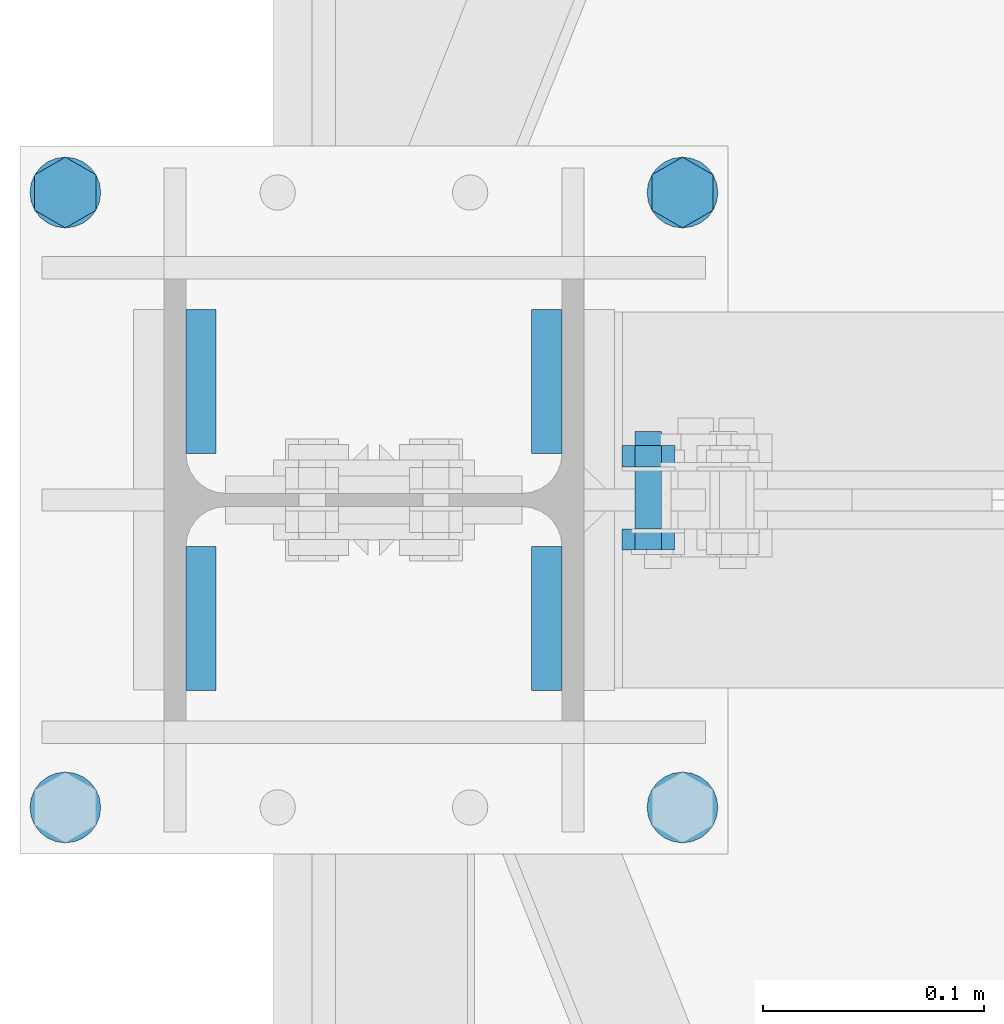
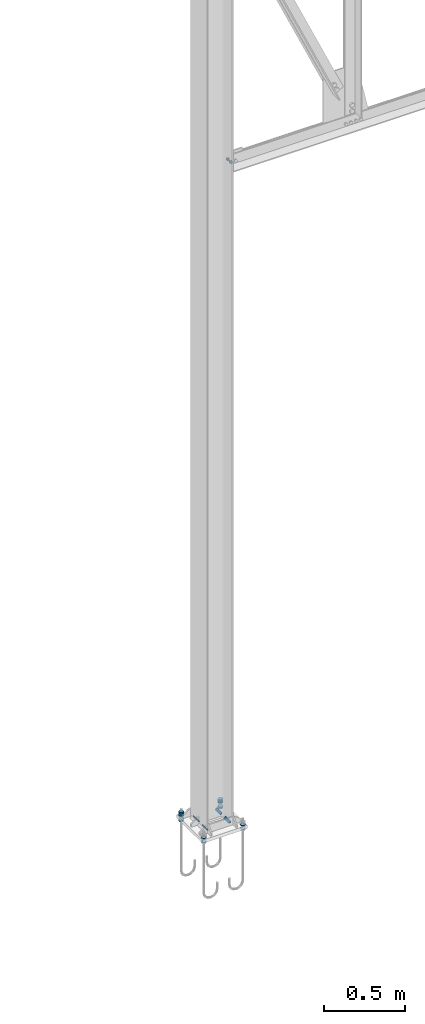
# One storey, part 121 of 251: 17 mechanical fasteners, 8 fasteners.
"""IFC4 building model written with IfcOpenShell, lengths in metres."""

from ifc_helpers import new_model, si_unit, frame, origin_with_axes, place, context, project, spatial, polyline, outline, extrude, type_object, element, save


model = new_model("IFC4")

# Units and contexts
model_context = context("Model", 3, precision=1e-05, world=origin_with_axes())
ifc_project = project(units=[si_unit("LENGTHUNIT", "METRE"), si_unit("AREAUNIT", "SQUARE_METRE"), si_unit("VOLUMEUNIT", "CUBIC_METRE"), si_unit("MASSUNIT", "GRAM", prefix="KILO"), si_unit("TIMEUNIT", "SECOND"), si_unit("PLANEANGLEUNIT", "RADIAN"), si_unit("SOLIDANGLEUNIT", "STERADIAN"), si_unit("THERMODYNAMICTEMPERATUREUNIT", "DEGREE_CELSIUS")], contexts=[model_context])

# Site, building, storey
placement_1 = place(None, origin_with_axes())
site = spatial("IfcSite", under=ifc_project, at=placement_1, Name="Italia", CompositionType="ELEMENT")
building = spatial("IfcBuilding", under=site, at=placement_1, Name="Deposito", CompositionType="ELEMENT")
storey = spatial("IfcBuildingStorey", under=building, at=placement_1, Name="Storey 0", CompositionType="ELEMENT", Elevation=0.0)

# Fasteners
fastener_type_1 = type_object("IfcFastenerType", Name="Collegamenti 0014_-001 0016_-054 0018_-056 0032_-002 0033_-058 0047_-003 0048_-060 0062_-004 0063_-005 0079_-008", PredefinedType="WELD")
placement_2 = place(placement_1, origin_with_axes())
fastener_1_placement = place(placement_2, origin_with_axes())
element("IfcFastener", 1, at=fastener_1_placement, inside=storey, type_object=fastener_type_1, Name="Collegamenti 0014_-001 0016_-054 0018_-056 0032_-002 0033_-058 0047_-003 0048_-060 0062_-004 0063_-005 0079_-008", context=model_context, shape_type="SweptSolid", body=[
    extrude(outline(polyline([(0.0, 0.0), (0.0137482, 0.0141734), (0.0137482, 0.0), (0.0, 0.0)])), frame((5.9787, 10.021, 0.07495), z_axis=(0.0, 1.0, 0.0), x_axis=(-1.0, 0.0, 0.0)), (0.0, 0.0, 1.0), 0.0650997),
])
fastener_type_2 = type_object("IfcFastenerType", Name="Collegamenti 0014_-001 0016_-054 0018_-056 0032_-002 0033_-058 0047_-003 0048_-060 0062_-004 0063_-005 0079_-008", PredefinedType="WELD")
fastener_2_placement = place(placement_2, origin_with_axes())
element("IfcFastener", 2, at=fastener_2_placement, inside=storey, type_object=fastener_type_2, Name="Collegamenti 0014_-001 0016_-054 0018_-056 0032_-002 0033_-058 0047_-003 0048_-060 0062_-004 0063_-005 0079_-008", context=model_context, shape_type="SweptSolid", body=[
    extrude(outline(polyline([(0.0, 0.0), (0.0137482, 0.0141734), (0.0137482, 0.0), (0.0, 0.0)])), frame((6.1213, 10.0861, 0.07495), z_axis=(0.0, -1.0, 0.0), x_axis=(1.0, 0.0, 0.0)), (0.0, 0.0, 1.0), 0.0650997),
])
fastener_type_3 = type_object("IfcFastenerType", Name="Collegamenti 0014_-001 0016_-054 0018_-056 0032_-002 0033_-058 0047_-003 0048_-060 0062_-004 0063_-005 0079_-008", PredefinedType="WELD")
fastener_3_placement = place(placement_2, origin_with_axes())
element("IfcFastener", 3, at=fastener_3_placement, inside=storey, type_object=fastener_type_3, Name="Collegamenti 0014_-001 0016_-054 0018_-056 0032_-002 0033_-058 0047_-003 0048_-060 0062_-004 0063_-005 0079_-008", context=model_context, shape_type="SweptSolid", body=[
    extrude(outline(polyline([(0.0, 0.0), (0.0137482, 0.0141734), (0.0137482, 0.0), (0.0, 0.0)])), frame((6.1213, 9.97905, 0.07495), z_axis=(0.0, -1.0, 0.0), x_axis=(1.0, 0.0, 0.0)), (0.0, 0.0, 1.0), 0.0650997),
])
fastener_type_4 = type_object("IfcFastenerType", Name="Collegamenti 0014_-001 0016_-054 0018_-056 0032_-002 0033_-058 0047_-003 0048_-060 0062_-004 0063_-005 0079_-008", PredefinedType="WELD")
fastener_4_placement = place(placement_2, origin_with_axes())
element("IfcFastener", 4, at=fastener_4_placement, inside=storey, type_object=fastener_type_4, Name="Collegamenti 0014_-001 0016_-054 0018_-056 0032_-002 0033_-058 0047_-003 0048_-060 0062_-004 0063_-005 0079_-008", context=model_context, shape_type="SweptSolid", body=[
    extrude(outline(polyline([(0.0, 0.0), (0.0137482, 0.0141734), (0.0137482, 0.0), (0.0, 0.0)])), frame((5.9787, 9.91395, 0.07495), z_axis=(0.0, 1.0, 0.0), x_axis=(-1.0, 0.0, 0.0)), (0.0, 0.0, 1.0), 0.0650997),
])
fastener_type_5 = type_object("IfcFastenerType", Name="Collegamenti 0014_-001 0016_-054 0018_-056 0032_-002 0033_-058 0047_-003 0048_-060 0062_-004 0063_-005 0079_-008", PredefinedType="WELD")
fastener_5_placement = place(placement_2, origin_with_axes())
element("IfcFastener", 5, at=fastener_5_placement, inside=storey, type_object=fastener_type_5, Name="Collegamenti 0014_-001 0016_-054 0018_-056 0032_-002 0033_-058 0047_-003 0048_-060 0062_-004 0063_-005 0079_-008", context=model_context, shape_type="SweptSolid", body=[
    extrude(outline(polyline([(0.0, 0.0), (0.0137482, 0.0141734), (0.0137482, 0.0), (0.0, 0.0)])), frame((5.9787, 10.021, 0.07495), z_axis=(0.0, 1.0, 0.0), x_axis=(-1.0, 0.0, 0.0)), (0.0, 0.0, 1.0), 0.0650997),
])
fastener_type_6 = type_object("IfcFastenerType", Name="Collegamenti 0014_-001 0016_-054 0018_-056 0032_-002 0033_-058 0047_-003 0048_-060 0062_-004 0063_-005 0079_-008", PredefinedType="WELD")
fastener_6_placement = place(placement_2, origin_with_axes())
element("IfcFastener", 6, at=fastener_6_placement, inside=storey, type_object=fastener_type_6, Name="Collegamenti 0014_-001 0016_-054 0018_-056 0032_-002 0033_-058 0047_-003 0048_-060 0062_-004 0063_-005 0079_-008", context=model_context, shape_type="SweptSolid", body=[
    extrude(outline(polyline([(0.0, 0.0), (0.0137482, 0.0141734), (0.0137482, 0.0), (0.0, 0.0)])), frame((6.1213, 10.0861, 0.07495), z_axis=(0.0, -1.0, 0.0), x_axis=(1.0, 0.0, 0.0)), (0.0, 0.0, 1.0), 0.0650997),
])
fastener_type_7 = type_object("IfcFastenerType", Name="Collegamenti 0014_-001 0016_-054 0018_-056 0032_-002 0033_-058 0047_-003 0048_-060 0062_-004 0063_-005 0079_-008", PredefinedType="WELD")
fastener_7_placement = place(placement_2, origin_with_axes())
element("IfcFastener", 7, at=fastener_7_placement, inside=storey, type_object=fastener_type_7, Name="Collegamenti 0014_-001 0016_-054 0018_-056 0032_-002 0033_-058 0047_-003 0048_-060 0062_-004 0063_-005 0079_-008", context=model_context, shape_type="SweptSolid", body=[
    extrude(outline(polyline([(0.0, 0.0), (0.0137482, 0.0141734), (0.0137482, 0.0), (0.0, 0.0)])), frame((6.1213, 9.97905, 0.07495), z_axis=(0.0, -1.0, 0.0), x_axis=(1.0, 0.0, 0.0)), (0.0, 0.0, 1.0), 0.0650997),
])
fastener_type_8 = type_object("IfcFastenerType", Name="Collegamenti 0014_-001 0016_-054 0018_-056 0032_-002 0033_-058 0047_-003 0048_-060 0062_-004 0063_-005 0079_-008", PredefinedType="WELD")
fastener_8_placement = place(placement_2, origin_with_axes())
element("IfcFastener", 8, at=fastener_8_placement, inside=storey, type_object=fastener_type_8, Name="Collegamenti 0014_-001 0016_-054 0018_-056 0032_-002 0033_-058 0047_-003 0048_-060 0062_-004 0063_-005 0079_-008", context=model_context, shape_type="SweptSolid", body=[
    extrude(outline(polyline([(0.0, 0.0), (0.0137482, 0.0141734), (0.0137482, 0.0), (0.0, 0.0)])), frame((5.9787, 9.91395, 0.07495), z_axis=(0.0, 1.0, 0.0), x_axis=(-1.0, 0.0, 0.0)), (0.0, 0.0, 1.0), 0.0650997),
])

# Mechanical fasteners
mechanical_fastener_type_1 = type_object("IfcMechanicalFastenerType", Name="Collegamenti 0014_-001 0016_-054 0018_-056 0032_-002 0033_-058 0047_-003 0048_-060 0062_-004 0063_-005 0079_-008", PredefinedType="BOLT")
mechanical_fastener_1_placement = place(placement_2, origin_with_axes())
element("IfcMechanicalFastener", 9, at=mechanical_fastener_1_placement, inside=storey, type_object=mechanical_fastener_type_1, Name="Collegamenti 0014_-001 0016_-054 0018_-056 0032_-002 0033_-058 0047_-003 0048_-060 0062_-004 0063_-005 0079_-008", NominalDiameter=0.032, context=model_context, shape_type="SweptSolid", body=[
    extrude(outline(polyline([(0.0, 0.0), (-0.000544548, -0.00414133), (-0.00214386, -0.0079999), (-0.00468636, -0.0113139), (-0.00799942, -0.0138564), (-0.0118589, -0.0154548), (-0.0159998, -0.0159998), (-0.0201406, -0.0154548), (-0.0240002, -0.0138564), (-0.0273132, -0.0113139), (-0.0298557, -0.0079999), (-0.031455, -0.00414133), (-0.0319996, 0.0), (-0.031455, 0.00414133), (-0.0298557, 0.0079999), (-0.0273132, 0.0113139), (-0.0240002, 0.0138564), (-0.0201406, 0.0154548), (-0.0159998, 0.0159998), (-0.0118589, 0.0154548), (-0.00799942, 0.0138564), (-0.00468636, 0.0113139), (-0.00214386, 0.0079999), (-0.000544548, 0.00414133), (0.0, 0.0)])), frame((6.1895, 9.877, 0.075), z_axis=(0.0, 0.0, 1.0), x_axis=(0.0, 1.0, 0.0)), (0.0, 0.0, 1.0), 0.00399999),
])
mechanical_fastener_type_2 = type_object("IfcMechanicalFastenerType", Name="Collegamenti 0014_-001 0016_-054 0018_-056 0032_-002 0033_-058 0047_-003 0048_-060 0062_-004 0063_-005 0079_-008", PredefinedType="BOLT")
mechanical_fastener_2_placement = place(placement_2, origin_with_axes())
element("IfcMechanicalFastener", 10, at=mechanical_fastener_2_placement, inside=storey, type_object=mechanical_fastener_type_2, Name="Collegamenti 0014_-001 0016_-054 0018_-056 0032_-002 0033_-058 0047_-003 0048_-060 0062_-004 0063_-005 0079_-008", NominalDiameter=0.032, context=model_context, shape_type="SweptSolid", body=[
    extrude(outline(polyline([(0.0, 0.0), (-0.000544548, -0.00414133), (-0.00214386, -0.0079999), (-0.00468636, -0.0113139), (-0.00799942, -0.0138564), (-0.0118589, -0.0154548), (-0.0159998, -0.0159998), (-0.0201406, -0.0154548), (-0.0240002, -0.0138564), (-0.0273132, -0.0113139), (-0.0298557, -0.0079999), (-0.031455, -0.00414133), (-0.0319996, 0.0), (-0.031455, 0.00414133), (-0.0298557, 0.0079999), (-0.0273132, 0.0113139), (-0.0240002, 0.0138564), (-0.0201406, 0.0154548), (-0.0159998, 0.0159998), (-0.0118589, 0.0154548), (-0.00799942, 0.0138564), (-0.00468636, 0.0113139), (-0.00214386, 0.0079999), (-0.000544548, 0.00414133), (0.0, 0.0)])), frame((6.1895, 9.877, 0.046), z_axis=(0.0, 0.0, 1.0), x_axis=(0.0, 1.0, 0.0)), (0.0, 0.0, 1.0), 0.004),
])
mechanical_fastener_type_3 = type_object("IfcMechanicalFastenerType", Name="Collegamenti 0014_-001 0016_-054 0018_-056 0032_-002 0033_-058 0047_-003 0048_-060 0062_-004 0063_-005 0079_-008", PredefinedType="BOLT")
mechanical_fastener_3_placement = place(placement_2, origin_with_axes())
element("IfcMechanicalFastener", 11, at=mechanical_fastener_3_placement, inside=storey, type_object=mechanical_fastener_type_3, Name="Collegamenti 0014_-001 0016_-054 0018_-056 0032_-002 0033_-058 0047_-003 0048_-060 0062_-004 0063_-005 0079_-008", NominalDiameter=0.0160001, context=model_context, shape_type="SweptSolid", body=[
    extrude(outline(polyline([(0.0, 0.0), (-0.0160007, 0.0), (-0.0240002, 0.0138569), (-0.0160007, 0.0277138), (0.0, 0.0277138), (0.00799942, 0.0138569), (0.0, 0.0)])), frame((6.20336, 10.147, 0.079), z_axis=(0.0, 0.0, 1.0), x_axis=(0.0, 1.0, 0.0)), (0.0, 0.0, 1.0), 0.0128),
])
mechanical_fastener_type_4 = type_object("IfcMechanicalFastenerType", Name="Collegamenti 0014_-001 0016_-054 0018_-056 0032_-002 0033_-058 0047_-003 0048_-060 0062_-004 0063_-005 0079_-008", PredefinedType="BOLT")
mechanical_fastener_4_placement = place(placement_2, origin_with_axes())
element("IfcMechanicalFastener", 12, at=mechanical_fastener_4_placement, inside=storey, type_object=mechanical_fastener_type_4, Name="Collegamenti 0014_-001 0016_-054 0018_-056 0032_-002 0033_-058 0047_-003 0048_-060 0062_-004 0063_-005 0079_-008", NominalDiameter=0.0160001, context=model_context, shape_type="SweptSolid", body=[
    extrude(outline(polyline([(0.0, 0.0), (-0.0160007, 0.0), (-0.0240002, 0.0138569), (-0.0160007, 0.0277138), (0.0, 0.0277138), (0.00799942, 0.0138569), (0.0, 0.0)])), frame((6.20336, 10.147, 0.0918), z_axis=(0.0, 0.0, 1.0), x_axis=(0.0, 1.0, 0.0)), (0.0, 0.0, 1.0), 0.0128),
])
mechanical_fastener_type_5 = type_object("IfcMechanicalFastenerType", Name="Collegamenti 0014_-001 0016_-054 0018_-056 0032_-002 0033_-058 0047_-003 0048_-060 0062_-004 0063_-005 0079_-008", PredefinedType="BOLT")
mechanical_fastener_5_placement = place(placement_2, origin_with_axes())
element("IfcMechanicalFastener", 13, at=mechanical_fastener_5_placement, inside=storey, type_object=mechanical_fastener_type_5, Name="Collegamenti 0014_-001 0016_-054 0018_-056 0032_-002 0033_-058 0047_-003 0048_-060 0062_-004 0063_-005 0079_-008", NominalDiameter=0.0160001, context=model_context, shape_type="SweptSolid", body=[
    extrude(outline(polyline([(0.0, 0.0), (-0.0160007, 0.0), (-0.0240002, 0.0138569), (-0.0160007, 0.0277138), (0.0, 0.0277138), (0.00799942, 0.0138569), (0.0, 0.0)])), frame((6.20336, 10.147, 0.0332), z_axis=(0.0, 0.0, 1.0), x_axis=(0.0, 1.0, 0.0)), (0.0, 0.0, 1.0), 0.0128),
])
mechanical_fastener_type_6 = type_object("IfcMechanicalFastenerType", Name="Collegamenti 0014_-001 0016_-054 0018_-056 0032_-002 0033_-058 0047_-003 0048_-060 0062_-004 0063_-005 0079_-008", PredefinedType="BOLT")
mechanical_fastener_6_placement = place(placement_2, origin_with_axes())
element("IfcMechanicalFastener", 14, at=mechanical_fastener_6_placement, inside=storey, type_object=mechanical_fastener_type_6, Name="Collegamenti 0014_-001 0016_-054 0018_-056 0032_-002 0033_-058 0047_-003 0048_-060 0062_-004 0063_-005 0079_-008", NominalDiameter=0.032, context=model_context, shape_type="SweptSolid", body=[
    extrude(outline(polyline([(0.0, 0.0), (-0.000544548, -0.00414133), (-0.00214386, -0.0079999), (-0.00468636, -0.0113139), (-0.00799942, -0.0138564), (-0.0118589, -0.0154548), (-0.0159998, -0.0159998), (-0.0201406, -0.0154548), (-0.0240002, -0.0138564), (-0.0273132, -0.0113139), (-0.0298557, -0.0079999), (-0.031455, -0.00414133), (-0.0319996, 0.0), (-0.031455, 0.00414133), (-0.0298557, 0.0079999), (-0.0273132, 0.0113139), (-0.0240002, 0.0138564), (-0.0201406, 0.0154548), (-0.0159998, 0.0159998), (-0.0118589, 0.0154548), (-0.00799942, 0.0138564), (-0.00468636, 0.0113139), (-0.00214386, 0.0079999), (-0.000544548, 0.00414133), (0.0, 0.0)])), frame((6.1895, 10.155, 0.075), z_axis=(0.0, 0.0, 1.0), x_axis=(0.0, 1.0, 0.0)), (0.0, 0.0, 1.0), 0.00399999),
])
mechanical_fastener_type_7 = type_object("IfcMechanicalFastenerType", Name="Collegamenti 0014_-001 0016_-054 0018_-056 0032_-002 0033_-058 0047_-003 0048_-060 0062_-004 0063_-005 0079_-008", PredefinedType="BOLT")
mechanical_fastener_7_placement = place(placement_2, origin_with_axes())
element("IfcMechanicalFastener", 15, at=mechanical_fastener_7_placement, inside=storey, type_object=mechanical_fastener_type_7, Name="Collegamenti 0014_-001 0016_-054 0018_-056 0032_-002 0033_-058 0047_-003 0048_-060 0062_-004 0063_-005 0079_-008", NominalDiameter=0.032, context=model_context, shape_type="SweptSolid", body=[
    extrude(outline(polyline([(0.0, 0.0), (-0.000544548, -0.00414133), (-0.00214386, -0.0079999), (-0.00468636, -0.0113139), (-0.00799942, -0.0138564), (-0.0118589, -0.0154548), (-0.0159998, -0.0159998), (-0.0201406, -0.0154548), (-0.0240002, -0.0138564), (-0.0273132, -0.0113139), (-0.0298557, -0.0079999), (-0.031455, -0.00414133), (-0.0319996, 0.0), (-0.031455, 0.00414133), (-0.0298557, 0.0079999), (-0.0273132, 0.0113139), (-0.0240002, 0.0138564), (-0.0201406, 0.0154548), (-0.0159998, 0.0159998), (-0.0118589, 0.0154548), (-0.00799942, 0.0138564), (-0.00468636, 0.0113139), (-0.00214386, 0.0079999), (-0.000544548, 0.00414133), (0.0, 0.0)])), frame((6.1895, 10.155, 0.046), z_axis=(0.0, 0.0, 1.0), x_axis=(0.0, 1.0, 0.0)), (0.0, 0.0, 1.0), 0.004),
])
mechanical_fastener_type_8 = type_object("IfcMechanicalFastenerType", Name="Collegamenti 0014_-001 0016_-054 0018_-056 0032_-002 0033_-058 0047_-003 0048_-060 0062_-004 0063_-005 0079_-008", PredefinedType="BOLT")
mechanical_fastener_8_placement = place(placement_2, origin_with_axes())
element("IfcMechanicalFastener", 16, at=mechanical_fastener_8_placement, inside=storey, type_object=mechanical_fastener_type_8, Name="Collegamenti 0014_-001 0016_-054 0018_-056 0032_-002 0033_-058 0047_-003 0048_-060 0062_-004 0063_-005 0079_-008", NominalDiameter=0.032, context=model_context, shape_type="SweptSolid", body=[
    extrude(outline(polyline([(0.0, 0.0), (-0.000544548, -0.00414133), (-0.00214386, -0.0079999), (-0.00468636, -0.0113139), (-0.00799942, -0.0138564), (-0.0118589, -0.0154548), (-0.0159998, -0.0159998), (-0.0201406, -0.0154548), (-0.0240002, -0.0138564), (-0.0273132, -0.0113139), (-0.0298557, -0.0079999), (-0.031455, -0.00414133), (-0.0319996, 0.0), (-0.031455, 0.00414133), (-0.0298557, 0.0079999), (-0.0273132, 0.0113139), (-0.0240002, 0.0138564), (-0.0201406, 0.0154548), (-0.0159998, 0.0159998), (-0.0118589, 0.0154548), (-0.00799942, 0.0138564), (-0.00468636, 0.0113139), (-0.00214386, 0.0079999), (-0.000544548, 0.00414133), (0.0, 0.0)])), frame((5.9105, 9.877, 0.075), z_axis=(0.0, 0.0, 1.0), x_axis=(0.0, 1.0, 0.0)), (0.0, 0.0, 1.0), 0.00399999),
])
mechanical_fastener_type_9 = type_object("IfcMechanicalFastenerType", Name="Collegamenti 0014_-001 0016_-054 0018_-056 0032_-002 0033_-058 0047_-003 0048_-060 0062_-004 0063_-005 0079_-008", PredefinedType="BOLT")
mechanical_fastener_9_placement = place(placement_2, origin_with_axes())
element("IfcMechanicalFastener", 17, at=mechanical_fastener_9_placement, inside=storey, type_object=mechanical_fastener_type_9, Name="Collegamenti 0014_-001 0016_-054 0018_-056 0032_-002 0033_-058 0047_-003 0048_-060 0062_-004 0063_-005 0079_-008", NominalDiameter=0.032, context=model_context, shape_type="SweptSolid", body=[
    extrude(outline(polyline([(0.0, 0.0), (-0.000544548, -0.00414133), (-0.00214386, -0.0079999), (-0.00468636, -0.0113139), (-0.00799942, -0.0138564), (-0.0118589, -0.0154548), (-0.0159998, -0.0159998), (-0.0201406, -0.0154548), (-0.0240002, -0.0138564), (-0.0273132, -0.0113139), (-0.0298557, -0.0079999), (-0.031455, -0.00414133), (-0.0319996, 0.0), (-0.031455, 0.00414133), (-0.0298557, 0.0079999), (-0.0273132, 0.0113139), (-0.0240002, 0.0138564), (-0.0201406, 0.0154548), (-0.0159998, 0.0159998), (-0.0118589, 0.0154548), (-0.00799942, 0.0138564), (-0.00468636, 0.0113139), (-0.00214386, 0.0079999), (-0.000544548, 0.00414133), (0.0, 0.0)])), frame((5.9105, 9.877, 0.046), z_axis=(0.0, 0.0, 1.0), x_axis=(0.0, 1.0, 0.0)), (0.0, 0.0, 1.0), 0.004),
])
mechanical_fastener_type_10 = type_object("IfcMechanicalFastenerType", Name="Collegamenti 0014_-001 0016_-054 0018_-056 0032_-002 0033_-058 0047_-003 0048_-060 0062_-004 0063_-005 0079_-008", PredefinedType="BOLT")
mechanical_fastener_10_placement = place(placement_2, origin_with_axes())
element("IfcMechanicalFastener", 18, at=mechanical_fastener_10_placement, inside=storey, type_object=mechanical_fastener_type_10, Name="Collegamenti 0014_-001 0016_-054 0018_-056 0032_-002 0033_-058 0047_-003 0048_-060 0062_-004 0063_-005 0079_-008", NominalDiameter=0.0160001, context=model_context, shape_type="SweptSolid", body=[
    extrude(outline(polyline([(0.0, 0.0), (-0.0160007, 0.0), (-0.0240002, 0.0138569), (-0.0160007, 0.0277138), (0.0, 0.0277138), (0.00799942, 0.0138569), (0.0, 0.0)])), frame((5.92436, 10.147, 0.079), z_axis=(0.0, 0.0, 1.0), x_axis=(0.0, 1.0, 0.0)), (0.0, 0.0, 1.0), 0.0128),
])
mechanical_fastener_type_11 = type_object("IfcMechanicalFastenerType", Name="Collegamenti 0014_-001 0016_-054 0018_-056 0032_-002 0033_-058 0047_-003 0048_-060 0062_-004 0063_-005 0079_-008", PredefinedType="BOLT")
mechanical_fastener_11_placement = place(placement_2, origin_with_axes())
element("IfcMechanicalFastener", 19, at=mechanical_fastener_11_placement, inside=storey, type_object=mechanical_fastener_type_11, Name="Collegamenti 0014_-001 0016_-054 0018_-056 0032_-002 0033_-058 0047_-003 0048_-060 0062_-004 0063_-005 0079_-008", NominalDiameter=0.0160001, context=model_context, shape_type="SweptSolid", body=[
    extrude(outline(polyline([(0.0, 0.0), (-0.0160007, 0.0), (-0.0240002, 0.0138569), (-0.0160007, 0.0277138), (0.0, 0.0277138), (0.00799942, 0.0138569), (0.0, 0.0)])), frame((5.92436, 10.147, 0.0918), z_axis=(0.0, 0.0, 1.0), x_axis=(0.0, 1.0, 0.0)), (0.0, 0.0, 1.0), 0.0128),
])
mechanical_fastener_type_12 = type_object("IfcMechanicalFastenerType", Name="Collegamenti 0014_-001 0016_-054 0018_-056 0032_-002 0033_-058 0047_-003 0048_-060 0062_-004 0063_-005 0079_-008", PredefinedType="BOLT")
mechanical_fastener_12_placement = place(placement_2, origin_with_axes())
element("IfcMechanicalFastener", 20, at=mechanical_fastener_12_placement, inside=storey, type_object=mechanical_fastener_type_12, Name="Collegamenti 0014_-001 0016_-054 0018_-056 0032_-002 0033_-058 0047_-003 0048_-060 0062_-004 0063_-005 0079_-008", NominalDiameter=0.0160001, context=model_context, shape_type="SweptSolid", body=[
    extrude(outline(polyline([(0.0, 0.0), (-0.0160007, 0.0), (-0.0240002, 0.0138569), (-0.0160007, 0.0277138), (0.0, 0.0277138), (0.00799942, 0.0138569), (0.0, 0.0)])), frame((5.92436, 10.147, 0.0332), z_axis=(0.0, 0.0, 1.0), x_axis=(0.0, 1.0, 0.0)), (0.0, 0.0, 1.0), 0.0128),
])
mechanical_fastener_type_13 = type_object("IfcMechanicalFastenerType", Name="Collegamenti 0014_-001 0016_-054 0018_-056 0032_-002 0033_-058 0047_-003 0048_-060 0062_-004 0063_-005 0079_-008", PredefinedType="BOLT")
mechanical_fastener_13_placement = place(placement_2, origin_with_axes())
element("IfcMechanicalFastener", 21, at=mechanical_fastener_13_placement, inside=storey, type_object=mechanical_fastener_type_13, Name="Collegamenti 0014_-001 0016_-054 0018_-056 0032_-002 0033_-058 0047_-003 0048_-060 0062_-004 0063_-005 0079_-008", NominalDiameter=0.032, context=model_context, shape_type="SweptSolid", body=[
    extrude(outline(polyline([(0.0, 0.0), (-0.000544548, -0.00414133), (-0.00214386, -0.0079999), (-0.00468636, -0.0113139), (-0.00799942, -0.0138564), (-0.0118589, -0.0154548), (-0.0159998, -0.0159998), (-0.0201406, -0.0154548), (-0.0240002, -0.0138564), (-0.0273132, -0.0113139), (-0.0298557, -0.0079999), (-0.031455, -0.00414133), (-0.0319996, 0.0), (-0.031455, 0.00414133), (-0.0298557, 0.0079999), (-0.0273132, 0.0113139), (-0.0240002, 0.0138564), (-0.0201406, 0.0154548), (-0.0159998, 0.0159998), (-0.0118589, 0.0154548), (-0.00799942, 0.0138564), (-0.00468636, 0.0113139), (-0.00214386, 0.0079999), (-0.000544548, 0.00414133), (0.0, 0.0)])), frame((5.9105, 10.155, 0.075), z_axis=(0.0, 0.0, 1.0), x_axis=(0.0, 1.0, 0.0)), (0.0, 0.0, 1.0), 0.00399999),
])
mechanical_fastener_type_14 = type_object("IfcMechanicalFastenerType", Name="Collegamenti 0014_-001 0016_-054 0018_-056 0032_-002 0033_-058 0047_-003 0048_-060 0062_-004 0063_-005 0079_-008", PredefinedType="BOLT")
mechanical_fastener_14_placement = place(placement_2, origin_with_axes())
element("IfcMechanicalFastener", 22, at=mechanical_fastener_14_placement, inside=storey, type_object=mechanical_fastener_type_14, Name="Collegamenti 0014_-001 0016_-054 0018_-056 0032_-002 0033_-058 0047_-003 0048_-060 0062_-004 0063_-005 0079_-008", NominalDiameter=0.032, context=model_context, shape_type="SweptSolid", body=[
    extrude(outline(polyline([(0.0, 0.0), (-0.000544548, -0.00414133), (-0.00214386, -0.0079999), (-0.00468636, -0.0113139), (-0.00799942, -0.0138564), (-0.0118589, -0.0154548), (-0.0159998, -0.0159998), (-0.0201406, -0.0154548), (-0.0240002, -0.0138564), (-0.0273132, -0.0113139), (-0.0298557, -0.0079999), (-0.031455, -0.00414133), (-0.0319996, 0.0), (-0.031455, 0.00414133), (-0.0298557, 0.0079999), (-0.0273132, 0.0113139), (-0.0240002, 0.0138564), (-0.0201406, 0.0154548), (-0.0159998, 0.0159998), (-0.0118589, 0.0154548), (-0.00799942, 0.0138564), (-0.00468636, 0.0113139), (-0.00214386, 0.0079999), (-0.000544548, 0.00414133), (0.0, 0.0)])), frame((5.9105, 10.155, 0.046), z_axis=(0.0, 0.0, 1.0), x_axis=(0.0, 1.0, 0.0)), (0.0, 0.0, 1.0), 0.004),
])
mechanical_fastener_type_15 = type_object("IfcMechanicalFastenerType", Name="Reticolare 4", PredefinedType="BOLT")
mechanical_fastener_15_placement = place(placement_2, origin_with_axes())
element("IfcMechanicalFastener", 23, at=mechanical_fastener_15_placement, inside=storey, type_object=mechanical_fastener_type_15, Name="Reticolare 4", NominalDiameter=0.0119999, context=model_context, shape_type="SweptSolid", body=[
    extrude(outline(polyline([(0.0, 0.0), (-0.0120001, 0.0), (-0.0180001, 0.0103922), (-0.0120001, 0.0207844), (0.0, 0.0207844), (0.00600004, 0.0103922), (0.0, 0.0)])), frame((6.18005, 9.987, 4.99661), z_axis=(0.0, -1.0, 0.0), x_axis=(1.0, 0.0, 0.0)), (0.0, 0.0, 1.0), 0.00960064),
])
mechanical_fastener_type_16 = type_object("IfcMechanicalFastenerType", Name="Reticolare 4", PredefinedType="BOLT")
mechanical_fastener_16_placement = place(placement_2, origin_with_axes())
element("IfcMechanicalFastener", 24, at=mechanical_fastener_16_placement, inside=storey, type_object=mechanical_fastener_type_16, Name="Reticolare 4", NominalDiameter=0.012, context=model_context, shape_type="SweptSolid", body=[
    extrude(outline(polyline([(0.0, 0.0), (-0.000204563, -0.00155306), (-0.000803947, -0.00299978), (-0.00175762, -0.00424242), (-0.00300026, -0.00519609), (-0.00444698, -0.00579548), (-0.00600004, -0.00600004), (-0.0075531, -0.00579548), (-0.00899982, -0.00519609), (-0.0102425, -0.00424242), (-0.0111961, -0.00299978), (-0.0117955, -0.00155306), (-0.0120001, 0.0), (-0.0117955, 0.00155306), (-0.0111961, 0.00299978), (-0.0102425, 0.00424242), (-0.00899982, 0.00519609), (-0.0075531, 0.00579548), (-0.00600004, 0.00600004), (-0.00444698, 0.00579548), (-0.00300026, 0.00519609), (-0.00175762, 0.00424242), (-0.000803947, 0.00299978), (-0.000204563, 0.00155306), (0.0, 0.0)])), frame((6.18005, 10.031, 5.007), z_axis=(0.0, -1.0, 0.0), x_axis=(1.0, 0.0, 0.0)), (0.0, 0.0, 1.0), 0.0439997),
])
mechanical_fastener_type_17 = type_object("IfcMechanicalFastenerType", Name="Reticolare 4", PredefinedType="BOLT")
mechanical_fastener_17_placement = place(placement_2, origin_with_axes())
element("IfcMechanicalFastener", 25, at=mechanical_fastener_17_placement, inside=storey, type_object=mechanical_fastener_type_17, Name="Reticolare 4", NominalDiameter=0.0119999, context=model_context, shape_type="SweptSolid", body=[
    extrude(outline(polyline([(0.0, 0.0), (-0.0120001, 0.0), (-0.0180001, 0.0103922), (-0.0120001, 0.0207844), (0.0, 0.0207844), (0.00600004, 0.0103922), (0.0, 0.0)])), frame((6.18005, 10.0246, 4.99661), z_axis=(0.0, -1.0, 0.0), x_axis=(1.0, 0.0, 0.0)), (0.0, 0.0, 1.0), 0.00959969),
])

save(model, "model.ifc")
